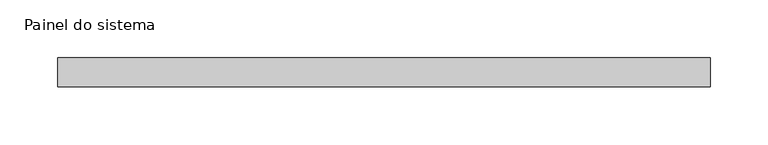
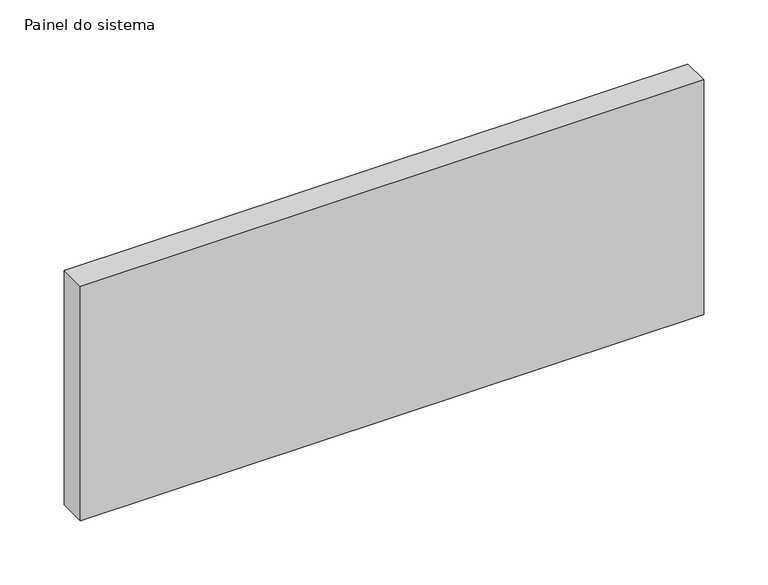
"""IFC4 building model written with IfcOpenShell, lengths in millimetres: plate geometry, Painel do sistema : Envidraçado."""

from ifc_helpers import new_model, si_unit, origin, origin_with_axes, place, context, project, spatial, polyline, outline, extrude, source, transform, mapped, element, save


def painel_do_sistema_a7846e76(model_context):
    return source(origin(), model_context, "Body", "SweptSolid", [
        extrude(outline(polyline([(281.25, 24.5), (-281.25, 24.5), (-281.25, 49.5), (281.25, 49.5), (281.25, 24.5)])), origin_with_axes(), (0.0, 0.0, 1.0), 223.6217085),
    ])


if __name__ == "__main__":
    model = new_model("IFC4")
    model_context = context("Model", 3, world=origin())
    ifc_project = project(units=[si_unit("LENGTHUNIT", "METRE", prefix="MILLI")], contexts=[model_context])
    site = spatial("IfcSite", under=ifc_project)
    building = spatial("IfcBuilding", under=site)
    placement = place(None, origin())
    painel_do_sistema_shape = painel_do_sistema_a7846e76(model_context)
    element("IfcPlate", 1, ObjectType="Painel do sistema : Envidraçado", at=placement, inside=building, context=model_context, shape_type="MappedRepresentation", body=[
        mapped(painel_do_sistema_shape, transform((0.0, 0.0, 0.0), x_axis=(1.0, 0.0, 0.0), y_axis=(0.0, 1.0, 0.0), z_axis=(0.0, 0.0, 1.0))),
    ])
    save(model, "model.ifc")
